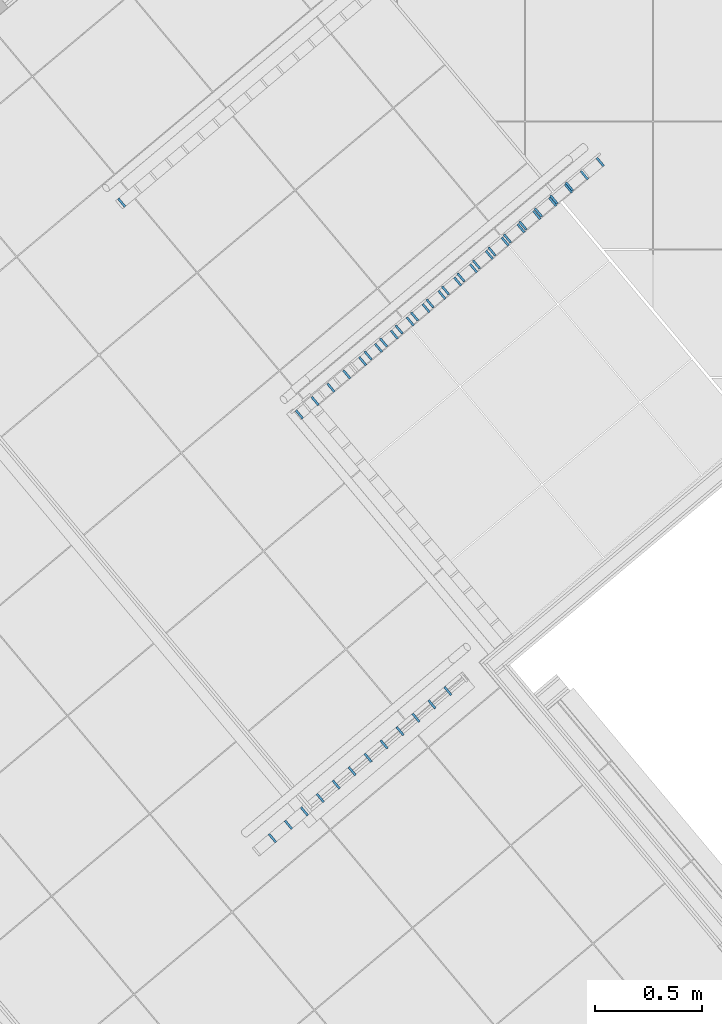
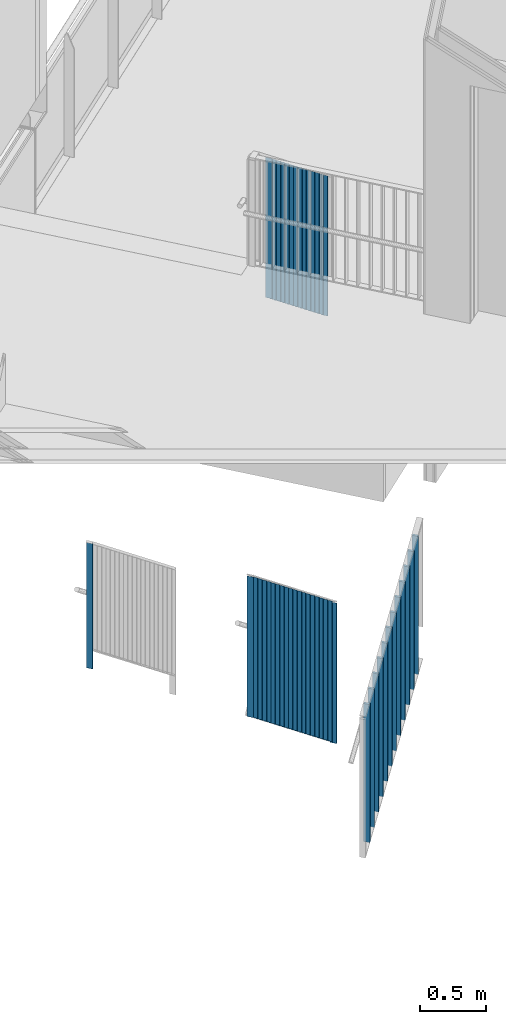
# One storey, part 1 of 321: 47 members, 4 elements without a shape of their own.
"""IFC2X3 building model written with IfcOpenShell, lengths in millimetres."""

from ifc_helpers import new_model, entity, si_unit, converted_unit, derived_unit, money_unit, direction, frame, origin_with_axes, place, context, subcontext, project, spatial, faceted_brep, source, transform, mapped, material, type_object, type_shapes, element, aggregate, save


model = new_model("IFC2X3")

# Units and contexts
model_context = context("Model", 3, precision=0.01, world=origin_with_axes(), true_north=direction((0.0, 1.0)))
plan_context = context("Plan", 3, precision=0.01, world=origin_with_axes(), true_north=direction((0.0, 1.0)))
body_context = subcontext(model_context, "Body", "Model", "MODEL_VIEW")
ifc_project = project(units=[si_unit("LENGTHUNIT", "METRE", prefix="MILLI"), si_unit("AREAUNIT", "SQUARE_METRE"), si_unit("VOLUMEUNIT", "CUBIC_METRE"), converted_unit("PLANEANGLEUNIT", "DEGREE", entity("IfcPlaneAngleMeasure", 0.0174532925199), si_unit("PLANEANGLEUNIT", "RADIAN"), dimensions=[0, 0, 0, 0, 0, 0, 0]), money_unit("EUR"), converted_unit("TIMEUNIT", "Year", entity("IfcTimeMeasure", 31556926.0), si_unit("TIMEUNIT", "SECOND"), dimensions=[0, 0, 1, 0, 0, 0, 0]), si_unit("MASSUNIT", "GRAM", prefix="KILO"), si_unit("THERMODYNAMICTEMPERATUREUNIT", "DEGREE_CELSIUS"), si_unit("LUMINOUSINTENSITYUNIT", "LUMEN"), si_unit("ENERGYUNIT", "JOULE", prefix="MEGA"), derived_unit("THERMALCONDUCTANCEUNIT", [(si_unit("POWERUNIT", "WATT"), 1), (si_unit("LENGTHUNIT", "METRE"), -1), (si_unit("THERMODYNAMICTEMPERATUREUNIT", "KELVIN"), -1)]), derived_unit("SPECIFICHEATCAPACITYUNIT", [(si_unit("ENERGYUNIT", "JOULE"), 1), (si_unit("MASSUNIT", "GRAM", prefix="KILO"), -1), (si_unit("THERMODYNAMICTEMPERATUREUNIT", "KELVIN"), -1)]), derived_unit("MASSDENSITYUNIT", [(si_unit("MASSUNIT", "GRAM", prefix="KILO"), 1), (si_unit("VOLUMEUNIT", "CUBIC_METRE"), -1)])], contexts=[model_context, plan_context])

# Site, building, storey
site_placement = place(None, origin_with_axes())
site = spatial("IfcSite", under=ifc_project, at=site_placement, Name="Fortuinstraat Woensdrecht", CompositionType="ELEMENT")
building_placement = place(site_placement, origin_with_axes())
building = spatial("IfcBuilding", under=site, at=building_placement, Name="IKC Fortuna", CompositionType="ELEMENT")
storey_placement = place(building_placement, frame((0.0, 0.0, 4000.0), z_axis=(0.0, 0.0, 1.0), x_axis=(1.0, 0.0, 0.0)))
storey = spatial("IfcBuildingStorey", under=building, at=storey_placement, Name="01 eerste verdieping", CompositionType="ELEMENT", Elevation=4000.0)

# Railing, members
railing_type = type_object("IfcRailingType", Name="Railing Type", PredefinedType="NOTDEFINED")
railing_1_placement = place(storey_placement, frame((21000.2167355, 3077.07880334, -3818.75), z_axis=(0.0, 0.0, 1.0), x_axis=(1.0, 0.0, 0.0)))
railing_1 = element("IfcRailing", 1, at=railing_1_placement, inside=storey, type_object=railing_type, Name="34_Reling_Trapleuning", PredefinedType="NOTDEFINED")
ifc_material = material(Name="Metaal - RVS")
member_type_1 = type_object("IfcMemberType", Name="IfcMember", PredefinedType="POST")
shared_shape_1 = source(origin_with_axes(), body_context, "Body", "Brep", [
    faceted_brep([(25.0, 5.0, 3.9402173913), (-25.0, 5.0, 3.9402173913), (-25.0, 5.0, 1303.94021739), (25.0, 5.0, 1303.94021739), (25.0, -5.0, -3.9402173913), (-25.0, -5.0, -3.9402173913), (-25.0, -5.0, 1296.05978261), (25.0, -5.0, 1296.05978261)], [[[0, 1, 2, 3]], [[0, 4, 5, 1]], [[1, 5, 6, 2]], [[3, 2, 6, 7]], [[4, 0, 3, 7]], [[5, 4, 7, 6]]]),
])
member_1_placement = place(railing_1_placement, frame((22.4975663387, -26.8115555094, -320.0), z_axis=(0.0, 0.0, 1.0), x_axis=(1.0, 0.0, 0.0)))
member_1 = element("IfcMember", 2, at=member_1_placement, type_object=member_type_1, material=ifc_material, Name="_Reling - baluster_", ObjectType="POST", context=body_context, shape_type="MappedRepresentation", body=[
    mapped(shared_shape_1, transform((0.0, 0.0, 0.0), x_axis=(-0.642787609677, 0.766044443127, 0.0), y_axis=(-0.766044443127, -0.642787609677, 0.0), z_axis=(0.0, 0.0, 1.0))),
])
member_2_placement = place(railing_1_placement, frame((-1387.00394634, -1209.52375492, 1129.97915543), z_axis=(0.0, 0.0, 1.0), x_axis=(1.0, 0.0, 0.0)))
member_2 = element("IfcMember", 3, at=member_2_placement, type_object=member_type_1, material=ifc_material, Name="_Reling - baluster_", ObjectType="POST", context=body_context, shape_type="MappedRepresentation", body=[
    mapped(shared_shape_1, transform((0.0, 0.0, 0.0), x_axis=(-0.642787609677, 0.766044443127, 0.0), y_axis=(-0.766044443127, -0.642787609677, 0.0), z_axis=(0.0, 0.0, 1.0))),
])
member_type_2 = type_object("IfcMemberType", Name="IfcMember", PredefinedType="MEMBER")
shared_shape_2 = source(origin_with_axes(), body_context, "Body", "Brep", [
    faceted_brep([(25.0, 5.0, 3.9402173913), (-25.0, 5.0, 3.9402173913), (-25.0, 5.0, 1303.94021739), (25.0, 5.0, 1303.94021739), (25.0, -5.0, -3.9402173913), (-25.0, -5.0, -3.9402173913), (-25.0, -5.0, 1296.05978261), (25.0, -5.0, 1296.05978261)], [[[0, 1, 2, 3]], [[0, 4, 5, 1]], [[1, 5, 6, 2]], [[3, 2, 6, 7]], [[4, 0, 3, 7]], [[5, 4, 7, 6]]]),
])
member_3_placement = place(railing_1_placement, frame((-51.6867238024, -89.0595660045, -238.685307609), z_axis=(0.0, 0.0, 1.0), x_axis=(1.0, 0.0, 0.0)))
member_3 = element("IfcMember", 4, at=member_3_placement, type_object=member_type_2, material=ifc_material, Name="_Onderdeel_Spijlen-x", ObjectType="MEMBER", context=body_context, shape_type="MappedRepresentation", body=[
    mapped(shared_shape_2, transform((0.0, 0.0, 0.0), x_axis=(-0.642787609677, 0.766044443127, 0.0), y_axis=(-0.766044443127, -0.642787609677, 0.0), z_axis=(0.0, 0.0, 1.0))),
])
member_4_placement = place(railing_1_placement, frame((-125.871013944, -151.3075765, -162.370615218), z_axis=(0.0, 0.0, 1.0), x_axis=(1.0, 0.0, 0.0)))
member_4 = element("IfcMember", 5, at=member_4_placement, type_object=member_type_2, material=ifc_material, Name="_Onderdeel_Spijlen-x", ObjectType="MEMBER", context=body_context, shape_type="MappedRepresentation", body=[
    mapped(shared_shape_2, transform((0.0, 0.0, 0.0), x_axis=(-0.642787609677, 0.766044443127, 0.0), y_axis=(-0.766044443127, -0.642787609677, 0.0), z_axis=(0.0, 0.0, 1.0))),
])
member_5_placement = place(railing_1_placement, frame((-200.055304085, -213.555586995, -86.0559228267), z_axis=(0.0, 0.0, 1.0), x_axis=(1.0, 0.0, 0.0)))
member_5 = element("IfcMember", 6, at=member_5_placement, type_object=member_type_2, material=ifc_material, Name="_Onderdeel_Spijlen-x", ObjectType="MEMBER", context=body_context, shape_type="MappedRepresentation", body=[
    mapped(shared_shape_2, transform((0.0, 0.0, 0.0), x_axis=(-0.642787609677, 0.766044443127, 0.0), y_axis=(-0.766044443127, -0.642787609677, 0.0), z_axis=(0.0, 0.0, 1.0))),
])
member_6_placement = place(railing_1_placement, frame((-274.239594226, -275.80359749, -9.74123043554), z_axis=(0.0, 0.0, 1.0), x_axis=(1.0, 0.0, 0.0)))
member_6 = element("IfcMember", 7, at=member_6_placement, type_object=member_type_2, material=ifc_material, Name="_Onderdeel_Spijlen-x", ObjectType="MEMBER", context=body_context, shape_type="MappedRepresentation", body=[
    mapped(shared_shape_2, transform((0.0, 0.0, 0.0), x_axis=(-0.642787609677, 0.766044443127, 0.0), y_axis=(-0.766044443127, -0.642787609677, 0.0), z_axis=(0.0, 0.0, 1.0))),
])
member_7_placement = place(railing_1_placement, frame((-348.423884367, -338.051607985, 66.5734619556), z_axis=(0.0, 0.0, 1.0), x_axis=(1.0, 0.0, 0.0)))
member_7 = element("IfcMember", 8, at=member_7_placement, type_object=member_type_2, material=ifc_material, Name="_Onderdeel_Spijlen-x", ObjectType="MEMBER", context=body_context, shape_type="MappedRepresentation", body=[
    mapped(shared_shape_2, transform((0.0, 0.0, 0.0), x_axis=(-0.642787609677, 0.766044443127, 0.0), y_axis=(-0.766044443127, -0.642787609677, 0.0), z_axis=(0.0, 0.0, 1.0))),
])
member_8_placement = place(railing_1_placement, frame((-422.608174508, -400.29961848, 142.888154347), z_axis=(0.0, 0.0, 1.0), x_axis=(1.0, 0.0, 0.0)))
member_8 = element("IfcMember", 9, at=member_8_placement, type_object=member_type_2, material=ifc_material, Name="_Onderdeel_Spijlen-x", ObjectType="MEMBER", context=body_context, shape_type="MappedRepresentation", body=[
    mapped(shared_shape_2, transform((0.0, 0.0, 0.0), x_axis=(-0.642787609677, 0.766044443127, 0.0), y_axis=(-0.766044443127, -0.642787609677, 0.0), z_axis=(0.0, 0.0, 1.0))),
])
member_9_placement = place(railing_1_placement, frame((-496.792464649, -462.547628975, 219.202846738), z_axis=(0.0, 0.0, 1.0), x_axis=(1.0, 0.0, 0.0)))
member_9 = element("IfcMember", 10, at=member_9_placement, type_object=member_type_2, material=ifc_material, Name="_Onderdeel_Spijlen-x", ObjectType="MEMBER", context=body_context, shape_type="MappedRepresentation", body=[
    mapped(shared_shape_2, transform((0.0, 0.0, 0.0), x_axis=(-0.642787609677, 0.766044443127, 0.0), y_axis=(-0.766044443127, -0.642787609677, 0.0), z_axis=(0.0, 0.0, 1.0))),
])
member_10_placement = place(railing_1_placement, frame((-570.97675479, -524.79563947, 295.517539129), z_axis=(0.0, 0.0, 1.0), x_axis=(1.0, 0.0, 0.0)))
member_10 = element("IfcMember", 11, at=member_10_placement, type_object=member_type_2, material=ifc_material, Name="_Onderdeel_Spijlen-x", ObjectType="MEMBER", context=body_context, shape_type="MappedRepresentation", body=[
    mapped(shared_shape_2, transform((0.0, 0.0, 0.0), x_axis=(-0.642787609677, 0.766044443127, 0.0), y_axis=(-0.766044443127, -0.642787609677, 0.0), z_axis=(0.0, 0.0, 1.0))),
])
member_11_placement = place(railing_1_placement, frame((-645.161044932, -587.043649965, 371.83223152), z_axis=(0.0, 0.0, 1.0), x_axis=(1.0, 0.0, 0.0)))
member_11 = element("IfcMember", 12, at=member_11_placement, type_object=member_type_2, material=ifc_material, Name="_Onderdeel_Spijlen-x", ObjectType="MEMBER", context=body_context, shape_type="MappedRepresentation", body=[
    mapped(shared_shape_2, transform((0.0, 0.0, 0.0), x_axis=(-0.642787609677, 0.766044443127, 0.0), y_axis=(-0.766044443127, -0.642787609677, 0.0), z_axis=(0.0, 0.0, 1.0))),
])
member_12_placement = place(railing_1_placement, frame((-719.345335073, -649.29166046, 448.146923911), z_axis=(0.0, 0.0, 1.0), x_axis=(1.0, 0.0, 0.0)))
member_12 = element("IfcMember", 13, at=member_12_placement, type_object=member_type_2, material=ifc_material, Name="_Onderdeel_Spijlen-x", ObjectType="MEMBER", context=body_context, shape_type="MappedRepresentation", body=[
    mapped(shared_shape_2, transform((0.0, 0.0, 0.0), x_axis=(-0.642787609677, 0.766044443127, 0.0), y_axis=(-0.766044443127, -0.642787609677, 0.0), z_axis=(0.0, 0.0, 1.0))),
])
member_13_placement = place(railing_1_placement, frame((-793.529625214, -711.539670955, 524.461616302), z_axis=(0.0, 0.0, 1.0), x_axis=(1.0, 0.0, 0.0)))
member_13 = element("IfcMember", 14, at=member_13_placement, type_object=member_type_2, material=ifc_material, Name="_Onderdeel_Spijlen-x", ObjectType="MEMBER", context=body_context, shape_type="MappedRepresentation", body=[
    mapped(shared_shape_2, transform((0.0, 0.0, 0.0), x_axis=(-0.642787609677, 0.766044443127, 0.0), y_axis=(-0.766044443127, -0.642787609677, 0.0), z_axis=(0.0, 0.0, 1.0))),
])
member_14_placement = place(railing_1_placement, frame((-867.713915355, -773.78768145, 600.776308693), z_axis=(0.0, 0.0, 1.0), x_axis=(1.0, 0.0, 0.0)))
member_14 = element("IfcMember", 15, at=member_14_placement, type_object=member_type_2, material=ifc_material, Name="_Onderdeel_Spijlen-x", ObjectType="MEMBER", context=body_context, shape_type="MappedRepresentation", body=[
    mapped(shared_shape_2, transform((0.0, 0.0, 0.0), x_axis=(-0.642787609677, 0.766044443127, 0.0), y_axis=(-0.766044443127, -0.642787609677, 0.0), z_axis=(0.0, 0.0, 1.0))),
])
member_15_placement = place(railing_1_placement, frame((-941.898205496, -836.035691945, 677.091001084), z_axis=(0.0, 0.0, 1.0), x_axis=(1.0, 0.0, 0.0)))
member_15 = element("IfcMember", 16, at=member_15_placement, type_object=member_type_2, material=ifc_material, Name="_Onderdeel_Spijlen-x", ObjectType="MEMBER", context=body_context, shape_type="MappedRepresentation", body=[
    mapped(shared_shape_2, transform((0.0, 0.0, 0.0), x_axis=(-0.642787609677, 0.766044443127, 0.0), y_axis=(-0.766044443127, -0.642787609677, 0.0), z_axis=(0.0, 0.0, 1.0))),
])
member_16_placement = place(railing_1_placement, frame((-1016.08249564, -898.28370244, 753.405693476), z_axis=(0.0, 0.0, 1.0), x_axis=(1.0, 0.0, 0.0)))
member_16 = element("IfcMember", 17, at=member_16_placement, type_object=member_type_2, material=ifc_material, Name="_Onderdeel_Spijlen-x", ObjectType="MEMBER", context=body_context, shape_type="MappedRepresentation", body=[
    mapped(shared_shape_2, transform((0.0, 0.0, 0.0), x_axis=(-0.642787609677, 0.766044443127, 0.0), y_axis=(-0.766044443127, -0.642787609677, 0.0), z_axis=(0.0, 0.0, 1.0))),
])
member_17_placement = place(railing_1_placement, frame((-1090.26678578, -960.531712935, 829.720385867), z_axis=(0.0, 0.0, 1.0), x_axis=(1.0, 0.0, 0.0)))
member_17 = element("IfcMember", 18, at=member_17_placement, type_object=member_type_2, material=ifc_material, Name="_Onderdeel_Spijlen-x", ObjectType="MEMBER", context=body_context, shape_type="MappedRepresentation", body=[
    mapped(shared_shape_2, transform((0.0, 0.0, 0.0), x_axis=(-0.642787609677, 0.766044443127, 0.0), y_axis=(-0.766044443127, -0.642787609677, 0.0), z_axis=(0.0, 0.0, 1.0))),
])
member_18_placement = place(railing_1_placement, frame((-1164.45107592, -1022.77972343, 906.035078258), z_axis=(0.0, 0.0, 1.0), x_axis=(1.0, 0.0, 0.0)))
member_18 = element("IfcMember", 19, at=member_18_placement, type_object=member_type_2, material=ifc_material, Name="_Onderdeel_Spijlen-x", ObjectType="MEMBER", context=body_context, shape_type="MappedRepresentation", body=[
    mapped(shared_shape_2, transform((0.0, 0.0, 0.0), x_axis=(-0.642787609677, 0.766044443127, 0.0), y_axis=(-0.766044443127, -0.642787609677, 0.0), z_axis=(0.0, 0.0, 1.0))),
])
member_19_placement = place(railing_1_placement, frame((-1238.63536606, -1085.02773393, 982.349770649), z_axis=(0.0, 0.0, 1.0), x_axis=(1.0, 0.0, 0.0)))
member_19 = element("IfcMember", 20, at=member_19_placement, type_object=member_type_2, material=ifc_material, Name="_Onderdeel_Spijlen-x", ObjectType="MEMBER", context=body_context, shape_type="MappedRepresentation", body=[
    mapped(shared_shape_2, transform((0.0, 0.0, 0.0), x_axis=(-0.642787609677, 0.766044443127, 0.0), y_axis=(-0.766044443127, -0.642787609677, 0.0), z_axis=(0.0, 0.0, 1.0))),
])
member_20_placement = place(railing_1_placement, frame((-1312.8196562, -1147.27574442, 1058.66446304), z_axis=(0.0, 0.0, 1.0), x_axis=(1.0, 0.0, 0.0)))
member_20 = element("IfcMember", 21, at=member_20_placement, type_object=member_type_2, material=ifc_material, Name="_Onderdeel_Spijlen-x", ObjectType="MEMBER", context=body_context, shape_type="MappedRepresentation", body=[
    mapped(shared_shape_2, transform((0.0, 0.0, 0.0), x_axis=(-0.642787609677, 0.766044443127, 0.0), y_axis=(-0.766044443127, -0.642787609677, 0.0), z_axis=(0.0, 0.0, 1.0))),
])
aggregate(railing_1, [member_1, member_2, member_3, member_4, member_5, member_6, member_7, member_8, member_9, member_10, member_11, member_12, member_13, member_14, member_15, member_16, member_17, member_18, member_19, member_20])

railing_2_placement = place(storey_placement, frame((19473.0503372, -83.5297075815, -2367.85714286), z_axis=(0.0, 0.0, 1.0), x_axis=(1.0, 0.0, 0.0)))
railing_2 = element("IfcRailing", 22, at=railing_2_placement, inside=storey, type_object=railing_type, Name="34_Reling_Trapleuning", PredefinedType="NOTDEFINED")
shared_shape_3 = source(origin_with_axes(), body_context, "Body", "Brep", [
    faceted_brep([(25.0, 5.0, 3.95962732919), (-25.0, 5.0, 3.95962732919), (-25.0, 5.0, 1281.45962733), (25.0, 5.0, 1281.45962733), (25.0, -5.0, -3.95962732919), (-25.0, -5.0, -3.95962732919), (-25.0, -5.0, 1273.54037267), (25.0, -5.0, 1273.54037267)], [[[0, 1, 2, 3]], [[0, 4, 5, 1]], [[1, 5, 6, 2]], [[3, 2, 6, 7]], [[4, 0, 3, 7]], [[5, 4, 7, 6]]]),
])
member_21_placement = place(railing_2_placement, frame((14.0558641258, -33.8949847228, -222.779148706), z_axis=(0.0, 0.0, 1.0), x_axis=(1.0, 0.0, 0.0)))
member_21 = element("IfcMember", 23, at=member_21_placement, type_object=member_type_2, material=ifc_material, Name="_Onderdeel_Spijlen-x", ObjectType="MEMBER", context=body_context, shape_type="MappedRepresentation", body=[
    mapped(shared_shape_3, transform((0.0, 0.0, 0.0), x_axis=(0.642787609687, -0.766044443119, 0.0), y_axis=(0.766044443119, 0.642787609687, 0.0), z_axis=(0.0, 0.0, 1.0))),
])
member_22_placement = place(railing_2_placement, frame((88.7530503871, 28.7833967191, -145.558297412), z_axis=(0.0, 0.0, 1.0), x_axis=(1.0, 0.0, 0.0)))
member_22 = element("IfcMember", 24, at=member_22_placement, type_object=member_type_2, material=ifc_material, Name="_Onderdeel_Spijlen-x", ObjectType="MEMBER", context=body_context, shape_type="MappedRepresentation", body=[
    mapped(shared_shape_3, transform((0.0, 0.0, 0.0), x_axis=(0.642787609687, -0.766044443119, 0.0), y_axis=(0.766044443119, 0.642787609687, 0.0), z_axis=(0.0, 0.0, 1.0))),
])
member_23_placement = place(railing_2_placement, frame((163.450236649, 91.461778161, -68.3374461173), z_axis=(0.0, 0.0, 1.0), x_axis=(1.0, 0.0, 0.0)))
member_23 = element("IfcMember", 25, at=member_23_placement, type_object=member_type_2, material=ifc_material, Name="_Onderdeel_Spijlen-x", ObjectType="MEMBER", context=body_context, shape_type="MappedRepresentation", body=[
    mapped(shared_shape_3, transform((0.0, 0.0, 0.0), x_axis=(0.642787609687, -0.766044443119, 0.0), y_axis=(0.766044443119, 0.642787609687, 0.0), z_axis=(0.0, 0.0, 1.0))),
])
member_24_placement = place(railing_2_placement, frame((238.14742291, 154.140159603, 8.88340517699), z_axis=(0.0, 0.0, 1.0), x_axis=(1.0, 0.0, 0.0)))
member_24 = element("IfcMember", 26, at=member_24_placement, type_object=member_type_2, material=ifc_material, Name="_Onderdeel_Spijlen-x", ObjectType="MEMBER", context=body_context, shape_type="MappedRepresentation", body=[
    mapped(shared_shape_3, transform((0.0, 0.0, 0.0), x_axis=(0.642787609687, -0.766044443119, 0.0), y_axis=(0.766044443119, 0.642787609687, 0.0), z_axis=(0.0, 0.0, 1.0))),
])
member_25_placement = place(railing_2_placement, frame((312.844609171, 216.818541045, 86.1042564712), z_axis=(0.0, 0.0, 1.0), x_axis=(1.0, 0.0, 0.0)))
member_25 = element("IfcMember", 27, at=member_25_placement, type_object=member_type_2, material=ifc_material, Name="_Onderdeel_Spijlen-x", ObjectType="MEMBER", context=body_context, shape_type="MappedRepresentation", body=[
    mapped(shared_shape_3, transform((0.0, 0.0, 0.0), x_axis=(0.642787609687, -0.766044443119, 0.0), y_axis=(0.766044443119, 0.642787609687, 0.0), z_axis=(0.0, 0.0, 1.0))),
])
member_26_placement = place(railing_2_placement, frame((387.541795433, 279.496922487, 163.325107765), z_axis=(0.0, 0.0, 1.0), x_axis=(1.0, 0.0, 0.0)))
member_26 = element("IfcMember", 28, at=member_26_placement, type_object=member_type_2, material=ifc_material, Name="_Onderdeel_Spijlen-x", ObjectType="MEMBER", context=body_context, shape_type="MappedRepresentation", body=[
    mapped(shared_shape_3, transform((0.0, 0.0, 0.0), x_axis=(0.642787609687, -0.766044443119, 0.0), y_axis=(0.766044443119, 0.642787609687, 0.0), z_axis=(0.0, 0.0, 1.0))),
])
member_27_placement = place(railing_2_placement, frame((462.238981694, 342.175303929, 240.54595906), z_axis=(0.0, 0.0, 1.0), x_axis=(1.0, 0.0, 0.0)))
member_27 = element("IfcMember", 29, at=member_27_placement, type_object=member_type_2, material=ifc_material, Name="_Onderdeel_Spijlen-x", ObjectType="MEMBER", context=body_context, shape_type="MappedRepresentation", body=[
    mapped(shared_shape_3, transform((0.0, 0.0, 0.0), x_axis=(0.642787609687, -0.766044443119, 0.0), y_axis=(0.766044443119, 0.642787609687, 0.0), z_axis=(0.0, 0.0, 1.0))),
])
member_28_placement = place(railing_2_placement, frame((536.936167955, 404.853685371, 317.766810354), z_axis=(0.0, 0.0, 1.0), x_axis=(1.0, 0.0, 0.0)))
member_28 = element("IfcMember", 30, at=member_28_placement, type_object=member_type_2, material=ifc_material, Name="_Onderdeel_Spijlen-x", ObjectType="MEMBER", context=body_context, shape_type="MappedRepresentation", body=[
    mapped(shared_shape_3, transform((0.0, 0.0, 0.0), x_axis=(0.642787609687, -0.766044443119, 0.0), y_axis=(0.766044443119, 0.642787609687, 0.0), z_axis=(0.0, 0.0, 1.0))),
])
member_29_placement = place(railing_2_placement, frame((611.633354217, 467.532066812, 394.987661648), z_axis=(0.0, 0.0, 1.0), x_axis=(1.0, 0.0, 0.0)))
member_29 = element("IfcMember", 31, at=member_29_placement, type_object=member_type_2, material=ifc_material, Name="_Onderdeel_Spijlen-x", ObjectType="MEMBER", context=body_context, shape_type="MappedRepresentation", body=[
    mapped(shared_shape_3, transform((0.0, 0.0, 0.0), x_axis=(0.642787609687, -0.766044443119, 0.0), y_axis=(0.766044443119, 0.642787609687, 0.0), z_axis=(0.0, 0.0, 1.0))),
])
member_30_placement = place(railing_2_placement, frame((686.330540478, 530.210448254, 472.208512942), z_axis=(0.0, 0.0, 1.0), x_axis=(1.0, 0.0, 0.0)))
member_30 = element("IfcMember", 32, at=member_30_placement, type_object=member_type_2, material=ifc_material, Name="_Onderdeel_Spijlen-x", ObjectType="MEMBER", context=body_context, shape_type="MappedRepresentation", body=[
    mapped(shared_shape_3, transform((0.0, 0.0, 0.0), x_axis=(0.642787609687, -0.766044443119, 0.0), y_axis=(0.766044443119, 0.642787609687, 0.0), z_axis=(0.0, 0.0, 1.0))),
])
member_31_placement = place(railing_2_placement, frame((761.02772674, 592.888829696, 549.429364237), z_axis=(0.0, 0.0, 1.0), x_axis=(1.0, 0.0, 0.0)))
member_31 = element("IfcMember", 33, at=member_31_placement, type_object=member_type_2, material=ifc_material, Name="_Onderdeel_Spijlen-x", ObjectType="MEMBER", context=body_context, shape_type="MappedRepresentation", body=[
    mapped(shared_shape_3, transform((0.0, 0.0, 0.0), x_axis=(0.642787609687, -0.766044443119, 0.0), y_axis=(0.766044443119, 0.642787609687, 0.0), z_axis=(0.0, 0.0, 1.0))),
])
member_32_placement = place(railing_2_placement, frame((835.724913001, 655.567211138, 626.650215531), z_axis=(0.0, 0.0, 1.0), x_axis=(1.0, 0.0, 0.0)))
member_32 = element("IfcMember", 34, at=member_32_placement, type_object=member_type_2, material=ifc_material, Name="_Onderdeel_Spijlen-x", ObjectType="MEMBER", context=body_context, shape_type="MappedRepresentation", body=[
    mapped(shared_shape_3, transform((0.0, 0.0, 0.0), x_axis=(0.642787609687, -0.766044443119, 0.0), y_axis=(0.766044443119, 0.642787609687, 0.0), z_axis=(0.0, 0.0, 1.0))),
])
aggregate(railing_2, [member_21, member_22, member_23, member_24, member_25, member_26, member_27, member_28, member_29, member_30, member_31, member_32])

# Railing, member
railing_3_placement = place(storey_placement, frame((20190.3043408, 4042.29479627, -3818.75), z_axis=(0.0, 0.0, 1.0), x_axis=(1.0, 0.0, 0.0)))
railing_3 = element("IfcRailing", 35, at=railing_3_placement, inside=storey, type_object=railing_type, Name="34_Reling_Trapleuning", PredefinedType="NOTDEFINED")
shared_shape_4 = source(origin_with_axes(), body_context, "Body", "Brep", [
    faceted_brep([(25.0, 5.0, 3.9402173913), (-25.0, 5.0, 3.9402173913), (-25.0, 5.0, 1163.94021739), (25.0, 5.0, 1163.94021739), (25.0, -5.0, -3.9402173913), (-25.0, -5.0, -3.9402173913), (-25.0, -5.0, 1156.05978261), (25.0, -5.0, 1156.05978261)], [[[0, 1, 2, 3]], [[0, 4, 5, 1]], [[1, 5, 6, 2]], [[3, 2, 6, 7]], [[4, 0, 3, 7]], [[5, 4, 7, 6]]]),
])
type_shapes(member_type_1, [shared_shape_1, shared_shape_4])
member_33_placement = place(railing_3_placement, frame((-1409.50151268, -1182.71219941, 1269.97915543), z_axis=(0.0, 0.0, 1.0), x_axis=(1.0, 0.0, 0.0)))
member_33 = element("IfcMember", 36, at=member_33_placement, type_object=member_type_1, material=ifc_material, Name="_Reling - baluster_", ObjectType="POST", context=body_context, shape_type="MappedRepresentation", body=[
    mapped(shared_shape_4, transform((0.0, 0.0, 0.0), x_axis=(-0.642787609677, 0.766044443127, 0.0), y_axis=(-0.766044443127, -0.642787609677, 0.0), z_axis=(0.0, 0.0, 1.0))),
])
aggregate(railing_3, [member_33])

# Railing, members
railing_4_placement = place(storey_placement, frame((21162.521342, 3493.11146248, 181.25), z_axis=(0.0, 0.0, 1.0), x_axis=(1.0, 0.0, 0.0)))
railing_4 = element("IfcRailing", 37, at=railing_4_placement, inside=storey, type_object=railing_type, Name="34_Reling_Trapleuning", PredefinedType="NOTDEFINED")
shared_shape_5 = source(origin_with_axes(), body_context, "Body", "Brep", [
    faceted_brep([(25.0, 5.0, 3.9402173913), (-25.0, 5.0, 3.9402173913), (-25.0, 5.0, 1301.44021739), (25.0, 5.0, 1301.44021739), (25.0, -5.0, -3.9402173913), (-25.0, -5.0, -3.9402173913), (-25.0, -5.0, 1293.55978261), (25.0, -5.0, 1293.55978261)], [[[0, 1, 2, 3]], [[0, 4, 5, 1]], [[1, 5, 6, 2]], [[3, 2, 6, 7]], [[4, 0, 3, 7]], [[5, 4, 7, 6]]]),
])
type_shapes(member_type_2, [shared_shape_2, shared_shape_3, shared_shape_5])
member_34_placement = place(railing_4_placement, frame((-284.163517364, -558.169771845, -245.367647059), z_axis=(0.0, 0.0, 1.0), x_axis=(1.0, 0.0, 0.0)))
member_34 = element("IfcMember", 38, at=member_34_placement, type_object=member_type_2, material=ifc_material, Name="_Onderdeel_Spijlen-x", ObjectType="MEMBER", context=body_context, shape_type="MappedRepresentation", body=[
    mapped(shared_shape_5, transform((0.0, 0.0, 0.0), x_axis=(-0.642787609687, 0.766044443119, 0.0), y_axis=(-0.766044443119, -0.642787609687, 0.0), z_axis=(0.0, 0.0, 1.0))),
])
member_35_placement = place(railing_4_placement, frame((-356.712432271, -619.045539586, -170.735294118), z_axis=(0.0, 0.0, 1.0), x_axis=(1.0, 0.0, 0.0)))
member_35 = element("IfcMember", 39, at=member_35_placement, type_object=member_type_2, material=ifc_material, Name="_Onderdeel_Spijlen-x", ObjectType="MEMBER", context=body_context, shape_type="MappedRepresentation", body=[
    mapped(shared_shape_5, transform((0.0, 0.0, 0.0), x_axis=(-0.642787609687, 0.766044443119, 0.0), y_axis=(-0.766044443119, -0.642787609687, 0.0), z_axis=(0.0, 0.0, 1.0))),
])
member_36_placement = place(railing_4_placement, frame((-429.261347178, -679.921307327, -96.1029411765), z_axis=(0.0, 0.0, 1.0), x_axis=(1.0, 0.0, 0.0)))
member_36 = element("IfcMember", 40, at=member_36_placement, type_object=member_type_2, material=ifc_material, Name="_Onderdeel_Spijlen-x", ObjectType="MEMBER", context=body_context, shape_type="MappedRepresentation", body=[
    mapped(shared_shape_5, transform((0.0, 0.0, 0.0), x_axis=(-0.642787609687, 0.766044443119, 0.0), y_axis=(-0.766044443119, -0.642787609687, 0.0), z_axis=(0.0, 0.0, 1.0))),
])
member_37_placement = place(railing_4_placement, frame((-501.810262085, -740.797075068, -21.4705882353), z_axis=(0.0, 0.0, 1.0), x_axis=(1.0, 0.0, 0.0)))
member_37 = element("IfcMember", 41, at=member_37_placement, type_object=member_type_2, material=ifc_material, Name="_Onderdeel_Spijlen-x", ObjectType="MEMBER", context=body_context, shape_type="MappedRepresentation", body=[
    mapped(shared_shape_5, transform((0.0, 0.0, 0.0), x_axis=(-0.642787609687, 0.766044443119, 0.0), y_axis=(-0.766044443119, -0.642787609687, 0.0), z_axis=(0.0, 0.0, 1.0))),
])
member_38_placement = place(railing_4_placement, frame((-574.359176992, -801.672842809, 53.1617647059), z_axis=(0.0, 0.0, 1.0), x_axis=(1.0, 0.0, 0.0)))
member_38 = element("IfcMember", 42, at=member_38_placement, type_object=member_type_2, material=ifc_material, Name="_Onderdeel_Spijlen-x", ObjectType="MEMBER", context=body_context, shape_type="MappedRepresentation", body=[
    mapped(shared_shape_5, transform((0.0, 0.0, 0.0), x_axis=(-0.642787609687, 0.766044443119, 0.0), y_axis=(-0.766044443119, -0.642787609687, 0.0), z_axis=(0.0, 0.0, 1.0))),
])
member_39_placement = place(railing_4_placement, frame((-646.908091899, -862.54861055, 127.794117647), z_axis=(0.0, 0.0, 1.0), x_axis=(1.0, 0.0, 0.0)))
member_39 = element("IfcMember", 43, at=member_39_placement, type_object=member_type_2, material=ifc_material, Name="_Onderdeel_Spijlen-x", ObjectType="MEMBER", context=body_context, shape_type="MappedRepresentation", body=[
    mapped(shared_shape_5, transform((0.0, 0.0, 0.0), x_axis=(-0.642787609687, 0.766044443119, 0.0), y_axis=(-0.766044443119, -0.642787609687, 0.0), z_axis=(0.0, 0.0, 1.0))),
])
member_40_placement = place(railing_4_placement, frame((-719.457006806, -923.424378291, 202.426470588), z_axis=(0.0, 0.0, 1.0), x_axis=(1.0, 0.0, 0.0)))
member_40 = element("IfcMember", 44, at=member_40_placement, type_object=member_type_2, material=ifc_material, Name="_Onderdeel_Spijlen-x", ObjectType="MEMBER", context=body_context, shape_type="MappedRepresentation", body=[
    mapped(shared_shape_5, transform((0.0, 0.0, 0.0), x_axis=(-0.642787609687, 0.766044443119, 0.0), y_axis=(-0.766044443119, -0.642787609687, 0.0), z_axis=(0.0, 0.0, 1.0))),
])
member_41_placement = place(railing_4_placement, frame((-792.005921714, -984.300146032, 277.058823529), z_axis=(0.0, 0.0, 1.0), x_axis=(1.0, 0.0, 0.0)))
member_41 = element("IfcMember", 45, at=member_41_placement, type_object=member_type_2, material=ifc_material, Name="_Onderdeel_Spijlen-x", ObjectType="MEMBER", context=body_context, shape_type="MappedRepresentation", body=[
    mapped(shared_shape_5, transform((0.0, 0.0, 0.0), x_axis=(-0.642787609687, 0.766044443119, 0.0), y_axis=(-0.766044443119, -0.642787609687, 0.0), z_axis=(0.0, 0.0, 1.0))),
])
member_42_placement = place(railing_4_placement, frame((-864.554836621, -1045.17591377, 351.691176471), z_axis=(0.0, 0.0, 1.0), x_axis=(1.0, 0.0, 0.0)))
member_42 = element("IfcMember", 46, at=member_42_placement, type_object=member_type_2, material=ifc_material, Name="_Onderdeel_Spijlen-x", ObjectType="MEMBER", context=body_context, shape_type="MappedRepresentation", body=[
    mapped(shared_shape_5, transform((0.0, 0.0, 0.0), x_axis=(-0.642787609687, 0.766044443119, 0.0), y_axis=(-0.766044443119, -0.642787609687, 0.0), z_axis=(0.0, 0.0, 1.0))),
])
member_43_placement = place(railing_4_placement, frame((-937.103751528, -1106.05168151, 426.323529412), z_axis=(0.0, 0.0, 1.0), x_axis=(1.0, 0.0, 0.0)))
member_43 = element("IfcMember", 47, at=member_43_placement, type_object=member_type_2, material=ifc_material, Name="_Onderdeel_Spijlen-x", ObjectType="MEMBER", context=body_context, shape_type="MappedRepresentation", body=[
    mapped(shared_shape_5, transform((0.0, 0.0, 0.0), x_axis=(-0.642787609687, 0.766044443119, 0.0), y_axis=(-0.766044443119, -0.642787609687, 0.0), z_axis=(0.0, 0.0, 1.0))),
])
member_44_placement = place(railing_4_placement, frame((-1009.65266644, -1166.92744925, 500.955882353), z_axis=(0.0, 0.0, 1.0), x_axis=(1.0, 0.0, 0.0)))
member_44 = element("IfcMember", 48, at=member_44_placement, type_object=member_type_2, material=ifc_material, Name="_Onderdeel_Spijlen-x", ObjectType="MEMBER", context=body_context, shape_type="MappedRepresentation", body=[
    mapped(shared_shape_5, transform((0.0, 0.0, 0.0), x_axis=(-0.642787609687, 0.766044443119, 0.0), y_axis=(-0.766044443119, -0.642787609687, 0.0), z_axis=(0.0, 0.0, 1.0))),
])
member_45_placement = place(railing_4_placement, frame((-1082.20158134, -1227.803217, 575.588235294), z_axis=(0.0, 0.0, 1.0), x_axis=(1.0, 0.0, 0.0)))
member_45 = element("IfcMember", 49, at=member_45_placement, type_object=member_type_2, material=ifc_material, Name="_Onderdeel_Spijlen-x", ObjectType="MEMBER", context=body_context, shape_type="MappedRepresentation", body=[
    mapped(shared_shape_5, transform((0.0, 0.0, 0.0), x_axis=(-0.642787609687, 0.766044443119, 0.0), y_axis=(-0.766044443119, -0.642787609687, 0.0), z_axis=(0.0, 0.0, 1.0))),
])
member_46_placement = place(railing_4_placement, frame((-1154.75049625, -1288.67898474, 650.220588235), z_axis=(0.0, 0.0, 1.0), x_axis=(1.0, 0.0, 0.0)))
member_46 = element("IfcMember", 50, at=member_46_placement, type_object=member_type_2, material=ifc_material, Name="_Onderdeel_Spijlen-x", ObjectType="MEMBER", context=body_context, shape_type="MappedRepresentation", body=[
    mapped(shared_shape_5, transform((0.0, 0.0, 0.0), x_axis=(-0.642787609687, 0.766044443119, 0.0), y_axis=(-0.766044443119, -0.642787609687, 0.0), z_axis=(0.0, 0.0, 1.0))),
])
member_47_placement = place(railing_4_placement, frame((-1227.29941116, -1349.55475248, 724.852941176), z_axis=(0.0, 0.0, 1.0), x_axis=(1.0, 0.0, 0.0)))
member_47 = element("IfcMember", 51, at=member_47_placement, type_object=member_type_2, material=ifc_material, Name="_Onderdeel_Spijlen-x", ObjectType="MEMBER", context=body_context, shape_type="MappedRepresentation", body=[
    mapped(shared_shape_5, transform((0.0, 0.0, 0.0), x_axis=(-0.642787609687, 0.766044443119, 0.0), y_axis=(-0.766044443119, -0.642787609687, 0.0), z_axis=(0.0, 0.0, 1.0))),
])
aggregate(railing_4, [member_34, member_35, member_36, member_37, member_38, member_39, member_40, member_41, member_42, member_43, member_44, member_45, member_46, member_47])

save(model, "model.ifc")
